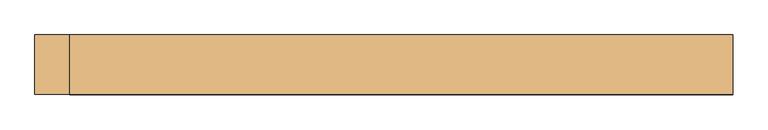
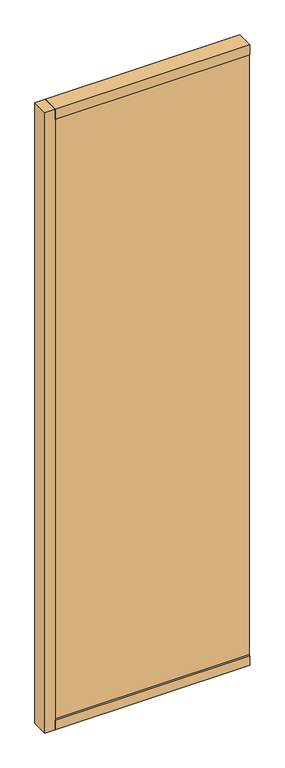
"""IFC4 building model written with IfcOpenShell, lengths in millimetres: door geometry, Mobiliário_Mobiliário de Escritório_Painel Vidro Duplo - DVDT, DVDL e DVXL (Inicial e Final)_Marelli : DV1DT - 10mm + 10mm - Temperado."""

from ifc_helpers import new_model, si_unit, frame, origin, origin_with_axes, place, context, project, spatial, polyline, outline, extrude, source, transform, mapped, element, save


def door_d8bc91a7(model_context):
    return source(origin(), model_context, "Body", "SweptSolid", [
        extrude(outline(polyline([(500.0, 42.5), (500.0, -42.5), (-450.0, -42.5), (-450.0, 42.5), (500.0, 42.5)])), origin_with_axes(), (0.0, 0.0, 1.0), 50.0),
        extrude(outline(polyline([(500.0, 42.5), (500.0, -42.5), (-450.0, -42.5), (-450.0, 42.5), (500.0, 42.5)])), frame((0.0, 0.0, 3150.0), z_axis=(0.0, 0.0, 1.0), x_axis=(1.0, 0.0, 0.0)), (0.0, 0.0, 1.0), 50.0),
        extrude(outline(polyline([(-500.0, -42.5), (-500.0, 42.5), (-450.0, 42.5), (-450.0, -42.5), (-500.0, -42.5)])), origin_with_axes(), (0.0, 0.0, 1.0), 3200.0),
        extrude(outline(polyline([(500.0, 35.1), (500.0, 25.1), (-450.0, 25.1), (-450.0, 35.1), (500.0, 35.1)])), frame((0.0, 0.0, 50.0), z_axis=(0.0, 0.0, 1.0), x_axis=(1.0, 0.0, 0.0)), (0.0, 0.0, 1.0), 3100.0),
        extrude(outline(polyline([(500.0, -35.1), (-450.0, -35.1), (-450.0, -25.1), (500.0, -25.1), (500.0, -35.1)])), frame((0.0, 0.0, 50.0), z_axis=(0.0, 0.0, 1.0), x_axis=(1.0, 0.0, 0.0)), (0.0, 0.0, 1.0), 3100.0),
    ])


if __name__ == "__main__":
    model = new_model("IFC4")
    model_context = context("Model", 3, world=origin())
    ifc_project = project(units=[si_unit("LENGTHUNIT", "METRE", prefix="MILLI")], contexts=[model_context])
    site = spatial("IfcSite", under=ifc_project)
    building = spatial("IfcBuilding", under=site)
    placement = place(None, origin())
    door_shape = door_d8bc91a7(model_context)
    element("IfcDoor", 1, ObjectType="Mobiliário_Mobiliário de Escritório_Painel Vidro Duplo - DVDT, DVDL e DVXL (Inicial e Final)_Marelli : DV1DT - 10mm + 10mm - Temperado", at=placement, inside=building, context=model_context, shape_type="MappedRepresentation", body=[
        mapped(door_shape, transform((0.0, 0.0, 0.0), x_axis=(1.0, 0.0, 0.0), y_axis=(0.0, 1.0, 0.0), z_axis=(0.0, 0.0, 1.0))),
    ])
    save(model, "model.ifc")
